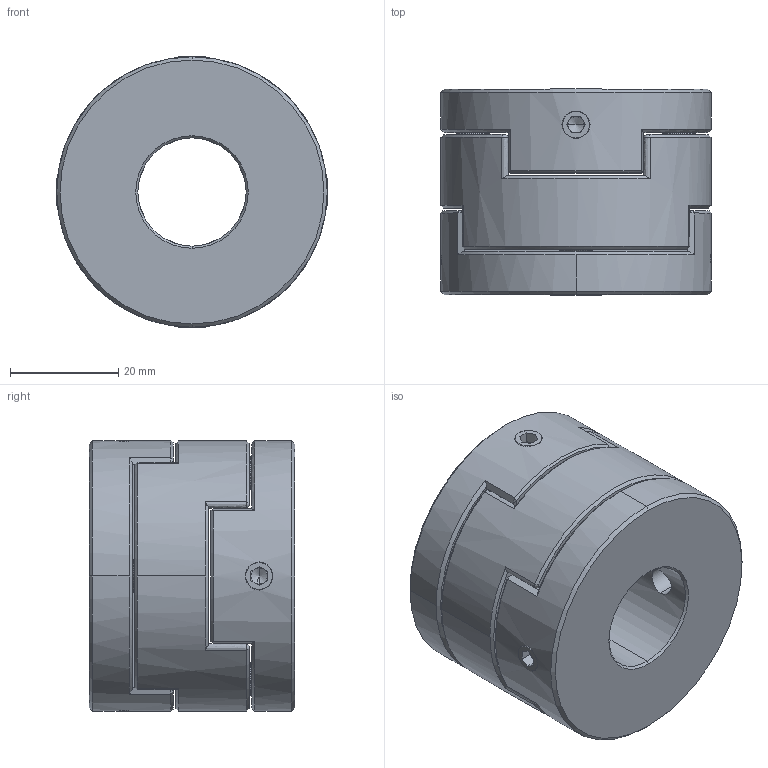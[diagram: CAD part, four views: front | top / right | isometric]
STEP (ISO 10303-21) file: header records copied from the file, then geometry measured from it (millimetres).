
FILE_DESCRIPTION (( 'STEP AP203' ), '1' );
FILE_NAME ('LZ-D-D50L38-20-20.STEP', '2021-10-30T06:04:41', ( '' ), ( '' ), 'SwSTEP 2.0', 'SolidWorks 2018', '' );
FILE_SCHEMA (( 'CONFIG_CONTROL_DESIGN' ));
Length unit declared in the file: millimetre
Products named in the file (1): LZ-D-D50L38-20-20
Bounding box: 50 x 38 x 50 mm (x, y, z)
Volume: 59411.3 mm3; surface area: 18308.5 mm2
Topology: 1 solids, 1 shells, 222 faces, 546 edges, 326 vertices
Faces by surface type: plane 88, bspline 54, cone 54, cylinder 26
Entity records: 7530 total; most frequent: CARTESIAN_POINT 2768, ORIENTED_EDGE 1076, DIRECTION 798, EDGE_CURVE 538, VERTEX_POINT 326, AXIS2_PLACEMENT_3D 289, EDGE_LOOP 248, FACE_OUTER_BOUND 222
